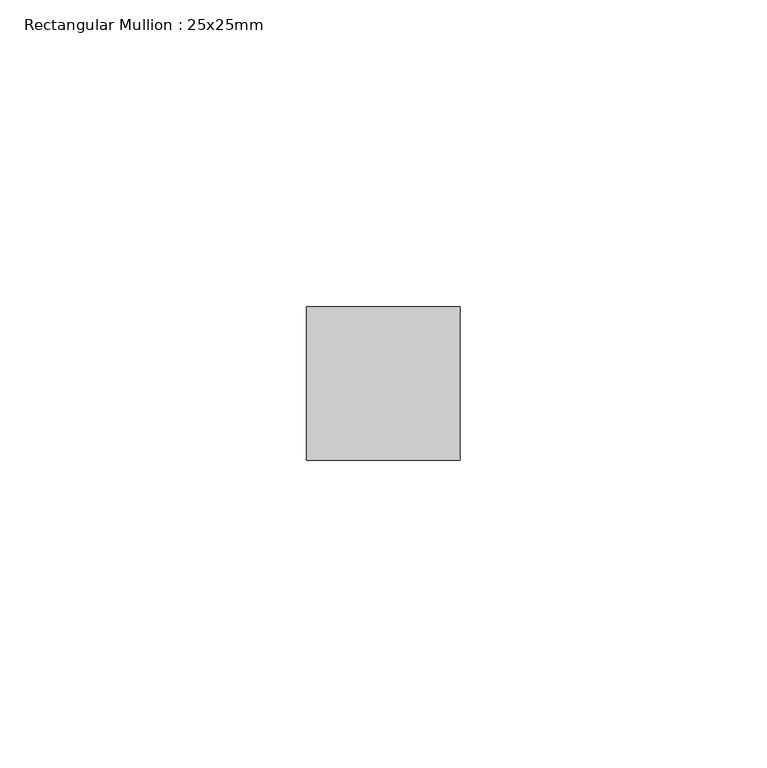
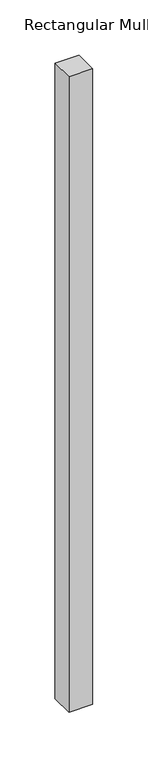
"""IFC4 building model written with IfcOpenShell, lengths in millimetres: member geometry, Rectangular Mullion : 25x25mm."""

from ifc_helpers import new_model, si_unit, frame, origin, place, context, project, spatial, polyline, outline, extrude, source, transform, mapped, element, save


def rectangular_mullion_25x25mm_87b81b05(model_context):
    return source(origin(), model_context, "Body", "SweptSolid", [
        extrude(outline(polyline([(12.5, 24.5), (12.5, -0.5), (-12.5, -0.5), (-12.5, 24.5), (12.5, 24.5)])), frame((0.0, 0.0, -702.5041399), z_axis=(0.0, 0.0, 1.0), x_axis=(1.0, 0.0, 0.0)), (0.0, 0.0, 1.0), 702.5041399),
    ])


if __name__ == "__main__":
    model = new_model("IFC4")
    model_context = context("Model", 3, world=origin())
    ifc_project = project(units=[si_unit("LENGTHUNIT", "METRE", prefix="MILLI")], contexts=[model_context])
    site = spatial("IfcSite", under=ifc_project)
    building = spatial("IfcBuilding", under=site)
    placement = place(None, origin())
    rectangular_mullion_25x25mm_shape = rectangular_mullion_25x25mm_87b81b05(model_context)
    element("IfcMember", 1, ObjectType="Rectangular Mullion : 25x25mm", at=placement, inside=building, context=model_context, shape_type="MappedRepresentation", body=[
        mapped(rectangular_mullion_25x25mm_shape, transform((0.0, 0.0, 0.0), x_axis=(1.0, 0.0, 0.0), y_axis=(0.0, 1.0, 0.0), z_axis=(0.0, 0.0, 1.0))),
    ])
    save(model, "model.ifc")
